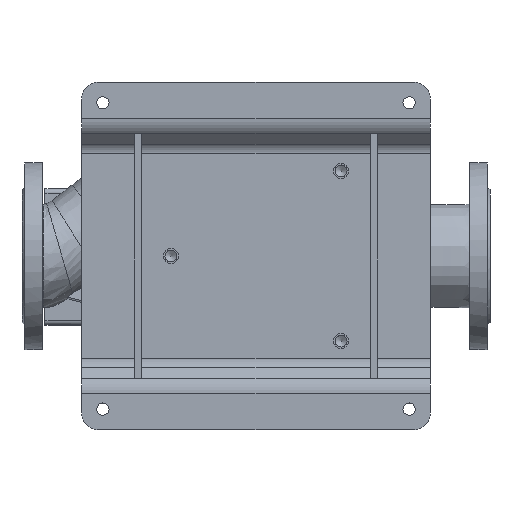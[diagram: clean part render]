
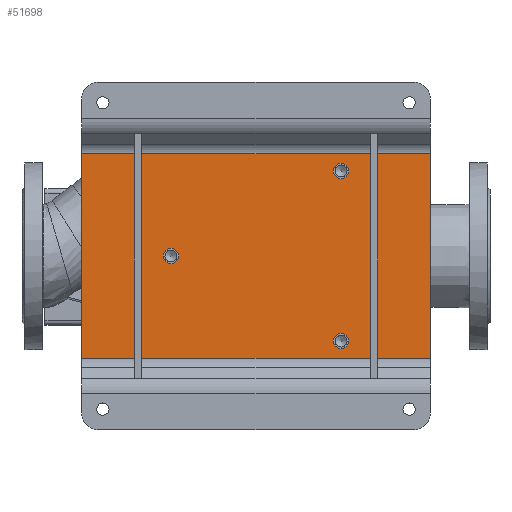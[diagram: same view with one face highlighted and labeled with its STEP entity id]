
A CAD part, top view. The second image highlights one B-rep face of the part: STEP entity #51698.
In plain terms, the highlighted planar face has unit normal (0, 0, 1) as drawn and (0, -1, 0) by its records, which use the part's own axes.
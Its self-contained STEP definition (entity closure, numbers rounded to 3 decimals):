
#42 = EDGE_CURVE ( 'NONE', #57834, #14717, #36251, .T. ) ;
#1632 = CARTESIAN_POINT ( 'NONE',  ( 0., -8., -100. ) ) ;
#2098 = EDGE_LOOP ( 'NONE', ( #34994 ) ) ;
#2373 = AXIS2_PLACEMENT_3D ( 'NONE', #67239, #26075, #43435 ) ;
#3129 = VECTOR ( 'NONE', #64800, 1000. ) ;
#3135 = EDGE_CURVE ( 'NONE', #3159, #3159, #38679, .T. ) ;
#3159 = VERTEX_POINT ( 'NONE', #26185 ) ;
#5019 = VERTEX_POINT ( 'NONE', #28412 ) ;
#6285 = VERTEX_POINT ( 'NONE', #53674 ) ;
#6482 = VERTEX_POINT ( 'NONE', #7233 ) ;
#7233 = CARTESIAN_POINT ( 'NONE',  ( -100., -8., 91. ) ) ;
#7859 = ORIENTED_EDGE ( 'NONE', *, *, #23622, .F. ) ;
#10187 = EDGE_LOOP ( 'NONE', ( #22924, #7859, #10714, #19688 ) ) ;
#10714 = ORIENTED_EDGE ( 'NONE', *, *, #73269, .F. ) ;
#11530 = FACE_BOUND ( 'NONE', #59498, .T. ) ;
#12952 = DIRECTION ( 'NONE',  ( 0., -1., 0. ) ) ;
#13653 = CARTESIAN_POINT ( 'NONE',  ( 120., -8., 205. ) ) ;
#14660 = DIRECTION ( 'NONE',  ( 0., 0., -1. ) ) ;
#14717 = VERTEX_POINT ( 'NONE', #50155 ) ;
#17280 = DIRECTION ( 'NONE',  ( -1., 0., 0. ) ) ;
#17513 = VERTEX_POINT ( 'NONE', #63661 ) ;
#17560 = PLANE ( 'NONE',  #34566 ) ;
#17586 = VECTOR ( 'NONE', #17280, 1000. ) ;
#17962 = EDGE_LOOP ( 'NONE', ( #40088 ) ) ;
#19688 = ORIENTED_EDGE ( 'NONE', *, *, #49270, .F. ) ;
#19739 = EDGE_CURVE ( 'NONE', #5019, #5019, #72832, .T. ) ;
#20949 = ORIENTED_EDGE ( 'NONE', *, *, #19739, .F. ) ;
#22924 = ORIENTED_EDGE ( 'NONE', *, *, #42, .F. ) ;
#23364 = AXIS2_PLACEMENT_3D ( 'NONE', #49805, #38475, #14660 ) ;
#23599 = FACE_BOUND ( 'NONE', #2098, .T. ) ;
#23622 = EDGE_CURVE ( 'NONE', #17513, #57834, #31570, .T. ) ;
#26075 = DIRECTION ( 'NONE',  ( 0., -1., 0. ) ) ;
#26185 = CARTESIAN_POINT ( 'NONE',  ( 0., -8., -109. ) ) ;
#26593 = EDGE_CURVE ( 'NONE', #6482, #6482, #36116, .T. ) ;
#28412 = CARTESIAN_POINT ( 'NONE',  ( 100., -8., 91. ) ) ;
#31570 = LINE ( 'NONE', #36120, #45219 ) ;
#34566 = AXIS2_PLACEMENT_3D ( 'NONE', #69696, #51573, #40224 ) ;
#34994 = ORIENTED_EDGE ( 'NONE', *, *, #26593, .F. ) ;
#35337 = LINE ( 'NONE', #70473, #3129 ) ;
#36116 = CIRCLE ( 'NONE', #2373, 9. ) ;
#36120 = CARTESIAN_POINT ( 'NONE',  ( -120., -8., 205. ) ) ;
#36251 = LINE ( 'NONE', #52139, #51529 ) ;
#38475 = DIRECTION ( 'NONE',  ( 0., -1., 0. ) ) ;
#38679 = CIRCLE ( 'NONE', #49521, 9. ) ;
#40088 = ORIENTED_EDGE ( 'NONE', *, *, #3135, .F. ) ;
#40224 = DIRECTION ( 'NONE',  ( 0., 0., -1. ) ) ;
#42528 = DIRECTION ( 'NONE',  ( 1., 0., 0. ) ) ;
#43435 = DIRECTION ( 'NONE',  ( 0., 0., -1. ) ) ;
#44138 = FACE_OUTER_BOUND ( 'NONE', #10187, .T. ) ;
#45219 = VECTOR ( 'NONE', #42528, 1000. ) ;
#49270 = EDGE_CURVE ( 'NONE', #14717, #6285, #63740, .T. ) ;
#49521 = AXIS2_PLACEMENT_3D ( 'NONE', #1632, #12952, #53001 ) ;
#49805 = CARTESIAN_POINT ( 'NONE',  ( 100., -8., 100. ) ) ;
#50155 = CARTESIAN_POINT ( 'NONE',  ( 120., -8., -205. ) ) ;
#51529 = VECTOR ( 'NONE', #58943, 1000. ) ;
#51573 = DIRECTION ( 'NONE',  ( 0., -1., 0. ) ) ;
#51698 = ADVANCED_FACE ( 'NONE', ( #11530, #72857, #23599, #44138 ), #17560, .T. ) ;
#52139 = CARTESIAN_POINT ( 'NONE',  ( 120., -8., 205. ) ) ;
#53001 = DIRECTION ( 'NONE',  ( 0., 0., -1. ) ) ;
#53674 = CARTESIAN_POINT ( 'NONE',  ( -120., -8., -205. ) ) ;
#57834 = VERTEX_POINT ( 'NONE', #13653 ) ;
#58943 = DIRECTION ( 'NONE',  ( 0., 0., -1. ) ) ;
#59498 = EDGE_LOOP ( 'NONE', ( #20949 ) ) ;
#63661 = CARTESIAN_POINT ( 'NONE',  ( -120., -8., 205. ) ) ;
#63740 = LINE ( 'NONE', #70529, #17586 ) ;
#64800 = DIRECTION ( 'NONE',  ( 0., 0., 1. ) ) ;
#67239 = CARTESIAN_POINT ( 'NONE',  ( -100., -8., 100. ) ) ;
#69696 = CARTESIAN_POINT ( 'NONE',  ( 0., -8., 0. ) ) ;
#70473 = CARTESIAN_POINT ( 'NONE',  ( -120., -8., 205. ) ) ;
#70529 = CARTESIAN_POINT ( 'NONE',  ( -120., -8., -205. ) ) ;
#72832 = CIRCLE ( 'NONE', #23364, 9. ) ;
#72857 = FACE_BOUND ( 'NONE', #17962, .T. ) ;
#73269 = EDGE_CURVE ( 'NONE', #6285, #17513, #35337, .T. ) ;
